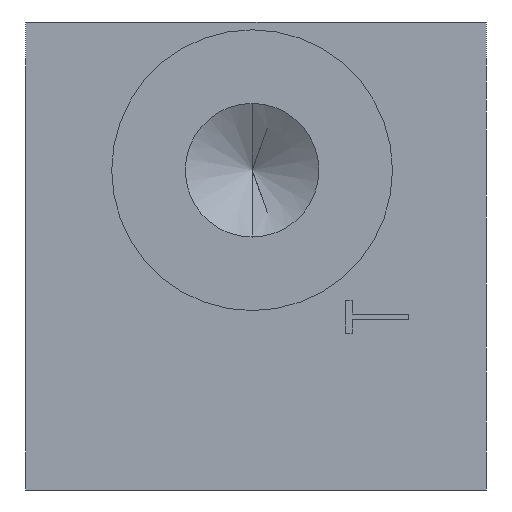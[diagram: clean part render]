
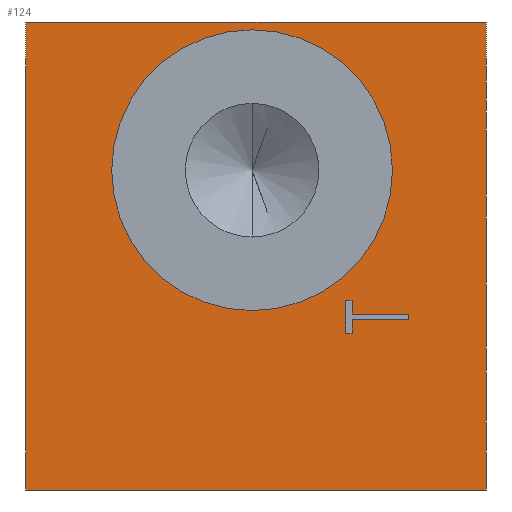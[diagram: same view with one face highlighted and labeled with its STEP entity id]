
A CAD part, left-side view. The second image highlights one B-rep face of the part: STEP entity #124.
In plain terms, the highlighted planar face has unit normal (-1, 0, 0).
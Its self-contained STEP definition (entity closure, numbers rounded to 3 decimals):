
#23 = AXIS2_PLACEMENT_3D ( 'NONE', #2385, #2164, #1948 ) ;
#52 = VERTEX_POINT ( 'NONE', #2634 ) ;
#99 = CIRCLE ( 'NONE', #23, 9. ) ;
#101 = VECTOR ( 'NONE', #1872, 1000. ) ;
#108 = DIRECTION ( 'NONE',  ( 0., -1., 0. ) ) ;
#124 = ADVANCED_FACE ( 'NONE', ( #1327, #126, #2418 ), #2857, .T. ) ;
#126 = FACE_OUTER_BOUND ( 'NONE', #2626, .T. ) ;
#148 = CARTESIAN_POINT ( 'NONE',  ( 0., -5.75, -4.949 ) ) ;
#156 = DIRECTION ( 'NONE',  ( 0., 0., 1. ) ) ;
#159 = ORIENTED_EDGE ( 'NONE', *, *, #2442, .T. ) ;
#203 = EDGE_CURVE ( 'NONE', #1961, #1656, #1694, .T. ) ;
#233 = VECTOR ( 'NONE', #1820, 1000. ) ;
#246 = EDGE_CURVE ( 'NONE', #588, #1961, #2740, .T. ) ;
#253 = LINE ( 'NONE', #2350, #1376 ) ;
#256 = EDGE_CURVE ( 'NONE', #1656, #2408, #449, .T. ) ;
#262 = ORIENTED_EDGE ( 'NONE', *, *, #334, .F. ) ;
#300 = EDGE_CURVE ( 'NONE', #701, #588, #966, .T. ) ;
#329 = VERTEX_POINT ( 'NONE', #377 ) ;
#334 = EDGE_CURVE ( 'NONE', #1149, #1660, #1397, .T. ) ;
#377 = CARTESIAN_POINT ( 'NONE',  ( 0., 14.75, 15. ) ) ;
#388 = DIRECTION ( 'NONE',  ( -1., 0., 0. ) ) ;
#390 = ORIENTED_EDGE ( 'NONE', *, *, #788, .T. ) ;
#429 = CARTESIAN_POINT ( 'NONE',  ( 0., -14.75, -15. ) ) ;
#449 = LINE ( 'NONE', #707, #2205 ) ;
#456 = DIRECTION ( 'NONE',  ( 0., 1., 0. ) ) ;
#460 = ORIENTED_EDGE ( 'NONE', *, *, #1234, .F. ) ;
#531 = LINE ( 'NONE', #1400, #2604 ) ;
#546 = DIRECTION ( 'NONE',  ( 0., 0., -1. ) ) ;
#548 = LINE ( 'NONE', #568, #2840 ) ;
#559 = DIRECTION ( 'NONE',  ( 0., 0., 1. ) ) ;
#566 = CARTESIAN_POINT ( 'NONE',  ( 0., -14.75, -15. ) ) ;
#568 = CARTESIAN_POINT ( 'NONE',  ( 0., 14.75, 15. ) ) ;
#587 = ORIENTED_EDGE ( 'NONE', *, *, #982, .T. ) ;
#588 = VERTEX_POINT ( 'NONE', #589 ) ;
#589 = CARTESIAN_POINT ( 'NONE',  ( 0., -6.16, -3.718 ) ) ;
#640 = CARTESIAN_POINT ( 'NONE',  ( 0., -6.16, -2.846 ) ) ;
#652 = CARTESIAN_POINT ( 'NONE',  ( 0., -6.16, -4.949 ) ) ;
#688 = DIRECTION ( 'NONE',  ( 0., 0., -1. ) ) ;
#693 = EDGE_CURVE ( 'NONE', #52, #1970, #99, .T. ) ;
#701 = VERTEX_POINT ( 'NONE', #711 ) ;
#707 = CARTESIAN_POINT ( 'NONE',  ( 0., -9.75, -4.077 ) ) ;
#711 = CARTESIAN_POINT ( 'NONE',  ( 0., -6.16, -2.846 ) ) ;
#788 = EDGE_CURVE ( 'NONE', #1724, #701, #253, .T. ) ;
#796 = CARTESIAN_POINT ( 'NONE',  ( 0., -6.16, -4.077 ) ) ;
#800 = CARTESIAN_POINT ( 'NONE',  ( 0., -14.75, 15. ) ) ;
#830 = VECTOR ( 'NONE', #456, 1000. ) ;
#852 = CARTESIAN_POINT ( 'NONE',  ( 0., -6.16, -3.718 ) ) ;
#898 = DIRECTION ( 'NONE',  ( 0., 1., 0. ) ) ;
#929 = DIRECTION ( 'NONE',  ( 0., -1., 0. ) ) ;
#952 = ORIENTED_EDGE ( 'NONE', *, *, #2172, .F. ) ;
#966 = LINE ( 'NONE', #640, #2646 ) ;
#982 = EDGE_CURVE ( 'NONE', #1458, #2570, #2061, .T. ) ;
#1036 = DIRECTION ( 'NONE',  ( 0., 0., 1. ) ) ;
#1070 = DIRECTION ( 'NONE',  ( 0., 1., 0. ) ) ;
#1149 = VERTEX_POINT ( 'NONE', #566 ) ;
#1204 = CARTESIAN_POINT ( 'NONE',  ( 0., 14.75, -15. ) ) ;
#1231 = VERTEX_POINT ( 'NONE', #800 ) ;
#1234 = EDGE_CURVE ( 'NONE', #1660, #329, #548, .T. ) ;
#1308 = LINE ( 'NONE', #1683, #101 ) ;
#1325 = ORIENTED_EDGE ( 'NONE', *, *, #246, .T. ) ;
#1327 = FACE_BOUND ( 'NONE', #1617, .T. ) ;
#1343 = EDGE_CURVE ( 'NONE', #1970, #52, #1508, .T. ) ;
#1376 = VECTOR ( 'NONE', #108, 1000. ) ;
#1397 = LINE ( 'NONE', #429, #830 ) ;
#1400 = CARTESIAN_POINT ( 'NONE',  ( 0., -14.75, 15. ) ) ;
#1441 = ORIENTED_EDGE ( 'NONE', *, *, #203, .T. ) ;
#1458 = VERTEX_POINT ( 'NONE', #652 ) ;
#1464 = VECTOR ( 'NONE', #156, 1000. ) ;
#1484 = CARTESIAN_POINT ( 'NONE',  ( 0., -9.75, -3.718 ) ) ;
#1505 = ORIENTED_EDGE ( 'NONE', *, *, #693, .F. ) ;
#1508 = CIRCLE ( 'NONE', #1996, 9. ) ;
#1567 = CARTESIAN_POINT ( 'NONE',  ( 0., -5.75, -4.949 ) ) ;
#1617 = EDGE_LOOP ( 'NONE', ( #2615, #1505 ) ) ;
#1624 = VECTOR ( 'NONE', #688, 1000. ) ;
#1656 = VERTEX_POINT ( 'NONE', #2751 ) ;
#1660 = VERTEX_POINT ( 'NONE', #1204 ) ;
#1683 = CARTESIAN_POINT ( 'NONE',  ( 0., -14.75, 15. ) ) ;
#1694 = LINE ( 'NONE', #2695, #1624 ) ;
#1721 = ORIENTED_EDGE ( 'NONE', *, *, #300, .T. ) ;
#1724 = VERTEX_POINT ( 'NONE', #2430 ) ;
#1763 = ORIENTED_EDGE ( 'NONE', *, *, #256, .T. ) ;
#1820 = DIRECTION ( 'NONE',  ( 0., 0., -1. ) ) ;
#1845 = AXIS2_PLACEMENT_3D ( 'NONE', #2876, #2545, #2232 ) ;
#1872 = DIRECTION ( 'NONE',  ( 0., 0., -1. ) ) ;
#1948 = DIRECTION ( 'NONE',  ( 0., 0., 1. ) ) ;
#1961 = VERTEX_POINT ( 'NONE', #1484 ) ;
#1970 = VERTEX_POINT ( 'NONE', #2134 ) ;
#1996 = AXIS2_PLACEMENT_3D ( 'NONE', #2831, #388, #559 ) ;
#2006 = LINE ( 'NONE', #2683, #233 ) ;
#2040 = LINE ( 'NONE', #148, #1464 ) ;
#2061 = LINE ( 'NONE', #2414, #2139 ) ;
#2076 = ORIENTED_EDGE ( 'NONE', *, *, #2190, .T. ) ;
#2134 = CARTESIAN_POINT ( 'NONE',  ( 0., 0.25, 14.5 ) ) ;
#2139 = VECTOR ( 'NONE', #898, 1000. ) ;
#2147 = VECTOR ( 'NONE', #929, 1000. ) ;
#2164 = DIRECTION ( 'NONE',  ( -1., 0., 0. ) ) ;
#2172 = EDGE_CURVE ( 'NONE', #329, #1231, #531, .T. ) ;
#2190 = EDGE_CURVE ( 'NONE', #2408, #1458, #2006, .T. ) ;
#2205 = VECTOR ( 'NONE', #1070, 1000. ) ;
#2232 = DIRECTION ( 'NONE',  ( 0., 0., 1. ) ) ;
#2233 = ORIENTED_EDGE ( 'NONE', *, *, #2836, .F. ) ;
#2350 = CARTESIAN_POINT ( 'NONE',  ( 0., -5.75, -2.846 ) ) ;
#2385 = CARTESIAN_POINT ( 'NONE',  ( 0., 0.25, 5.5 ) ) ;
#2408 = VERTEX_POINT ( 'NONE', #796 ) ;
#2414 = CARTESIAN_POINT ( 'NONE',  ( 0., -6.16, -4.949 ) ) ;
#2418 = FACE_BOUND ( 'NONE', #2881, .T. ) ;
#2430 = CARTESIAN_POINT ( 'NONE',  ( 0., -5.75, -2.846 ) ) ;
#2442 = EDGE_CURVE ( 'NONE', #2570, #1724, #2040, .T. ) ;
#2545 = DIRECTION ( 'NONE',  ( -1., 0., 0. ) ) ;
#2570 = VERTEX_POINT ( 'NONE', #1567 ) ;
#2604 = VECTOR ( 'NONE', #2700, 1000. ) ;
#2615 = ORIENTED_EDGE ( 'NONE', *, *, #1343, .F. ) ;
#2626 = EDGE_LOOP ( 'NONE', ( #262, #2233, #952, #460 ) ) ;
#2634 = CARTESIAN_POINT ( 'NONE',  ( 0., 0.25, -3.5 ) ) ;
#2646 = VECTOR ( 'NONE', #546, 1000. ) ;
#2683 = CARTESIAN_POINT ( 'NONE',  ( 0., -6.16, -4.077 ) ) ;
#2695 = CARTESIAN_POINT ( 'NONE',  ( 0., -9.75, -3.718 ) ) ;
#2700 = DIRECTION ( 'NONE',  ( 0., -1., 0. ) ) ;
#2740 = LINE ( 'NONE', #852, #2147 ) ;
#2751 = CARTESIAN_POINT ( 'NONE',  ( 0., -9.75, -4.077 ) ) ;
#2831 = CARTESIAN_POINT ( 'NONE',  ( 0., 0.25, 5.5 ) ) ;
#2836 = EDGE_CURVE ( 'NONE', #1231, #1149, #1308, .T. ) ;
#2840 = VECTOR ( 'NONE', #1036, 1000. ) ;
#2857 = PLANE ( 'NONE',  #1845 ) ;
#2876 = CARTESIAN_POINT ( 'NONE',  ( 0., 14.75, -15. ) ) ;
#2881 = EDGE_LOOP ( 'NONE', ( #1763, #2076, #587, #159, #390, #1721, #1325, #1441 ) ) ;
